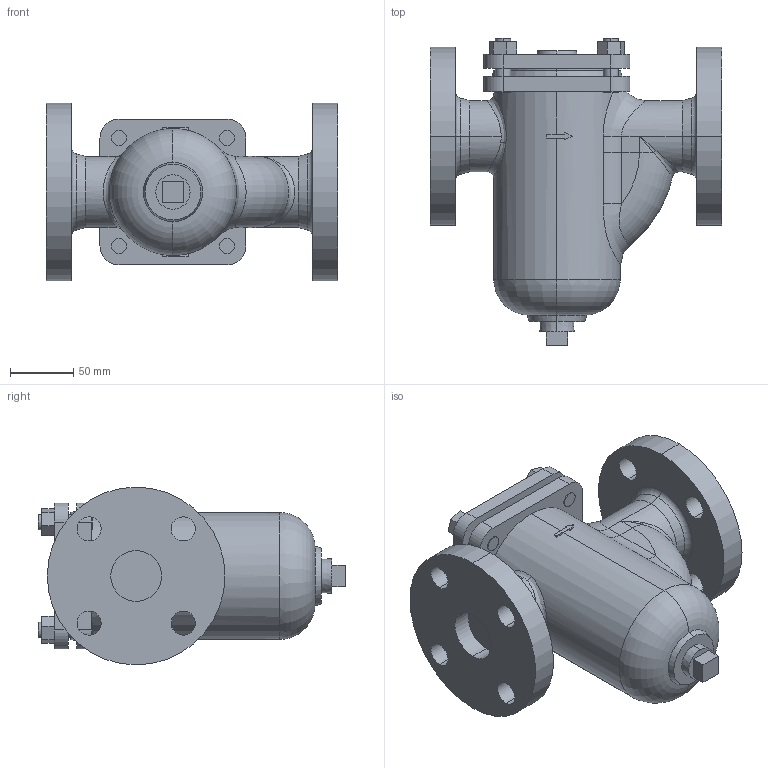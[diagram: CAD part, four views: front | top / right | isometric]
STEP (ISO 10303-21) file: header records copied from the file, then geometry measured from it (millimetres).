
FILE_DESCRIPTION (( 'STEP AP203' ), '1' );
FILE_NAME ('SU-20 40A.STEP', '2025-12-12T05:57:55', ( '' ), ( '' ), 'SwSTEP 2.0', 'SolidWorks 2024', '' );
FILE_SCHEMA (( 'CONFIG_CONTROL_DESIGN' ));
Length unit declared in the file: millimetre
Products named in the file (1): SU-20 40A
Bounding box: 230 x 242 x 140 mm (x, y, z)
Volume: 2593269.7 mm3; surface area: 201111 mm2
Topology: 1 solids, 1 shells, 181 faces, 439 edges, 283 vertices
Faces by surface type: plane 83, cylinder 70, cone 12, bspline 7, torus 7, sphere 2
Entity records: 7053 total; most frequent: CARTESIAN_POINT 2598, DIRECTION 946, ORIENTED_EDGE 874, EDGE_CURVE 437, AXIS2_PLACEMENT_3D 356, VERTEX_POINT 283, VECTOR 234, LINE 234
